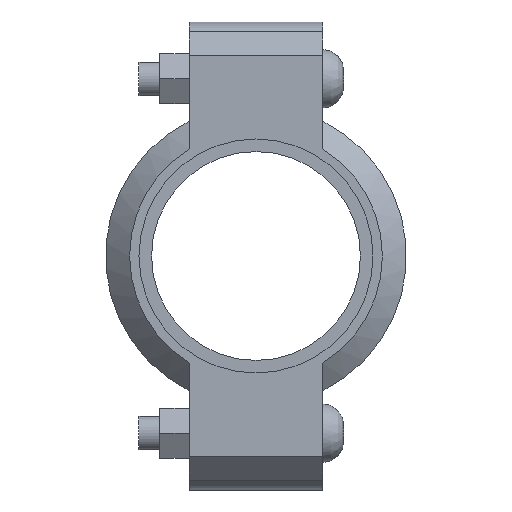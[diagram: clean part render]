
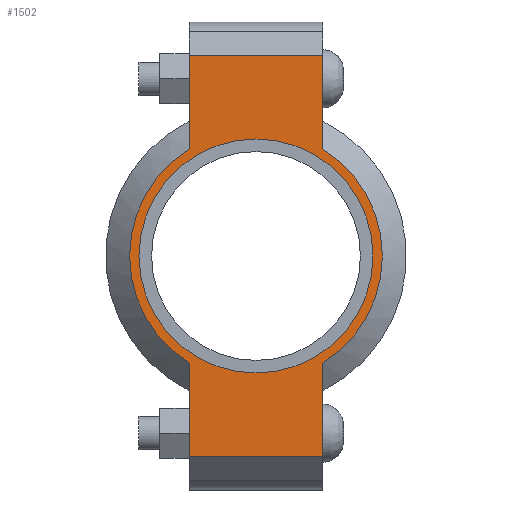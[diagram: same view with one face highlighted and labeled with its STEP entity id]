
A CAD part, left-side view. The second image highlights one B-rep face of the part: STEP entity #1502.
In plain terms, the highlighted planar face has unit normal (-1, 0, 0) as drawn and (0, 0, 1) by its records, which use the part's own axes.
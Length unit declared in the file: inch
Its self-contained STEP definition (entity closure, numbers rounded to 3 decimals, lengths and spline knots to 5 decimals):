
#126=LINE('',#2621,#219);
#134=LINE('',#2657,#227);
#141=LINE('',#2678,#234);
#150=LINE('',#2710,#243);
#151=LINE('',#2714,#244);
#152=LINE('',#2716,#245);
#219=VECTOR('',#2145,0.3937);
#227=VECTOR('',#2161,0.3937);
#234=VECTOR('',#2180,0.3937);
#243=VECTOR('',#2205,0.3937);
#244=VECTOR('',#2210,0.3937);
#245=VECTOR('',#2211,0.3937);
#301=FACE_BOUND('',#479,.T.);
#373=FACE_OUTER_BOUND('',#478,.T.);
#478=EDGE_LOOP('',(#1243,#1244,#1245,#1246,#1247,#1248,#1249,#1250));
#479=EDGE_LOOP('',(#1251));
#551=CIRCLE('',#1721,1.75);
#577=CIRCLE('',#1780,1.89);
#578=CIRCLE('',#1781,1.89);
#643=VERTEX_POINT('',#2437);
#686=VERTEX_POINT('',#2618);
#687=VERTEX_POINT('',#2620);
#698=VERTEX_POINT('',#2652);
#699=VERTEX_POINT('',#2656);
#706=VERTEX_POINT('',#2675);
#707=VERTEX_POINT('',#2677);
#717=VERTEX_POINT('',#2713);
#718=VERTEX_POINT('',#2715);
#799=EDGE_CURVE('',#643,#643,#551,.T.);
#860=EDGE_CURVE('',#687,#686,#126,.T.);
#874=EDGE_CURVE('',#699,#698,#134,.T.);
#884=EDGE_CURVE('',#707,#706,#141,.T.);
#899=EDGE_CURVE('',#699,#686,#150,.T.);
#900=EDGE_CURVE('',#698,#707,#577,.T.);
#901=EDGE_CURVE('',#717,#706,#151,.T.);
#902=EDGE_CURVE('',#717,#718,#152,.T.);
#903=EDGE_CURVE('',#718,#687,#578,.T.);
#1243=ORIENTED_EDGE('',*,*,#899,.F.);
#1244=ORIENTED_EDGE('',*,*,#874,.T.);
#1245=ORIENTED_EDGE('',*,*,#900,.T.);
#1246=ORIENTED_EDGE('',*,*,#884,.T.);
#1247=ORIENTED_EDGE('',*,*,#901,.F.);
#1248=ORIENTED_EDGE('',*,*,#902,.T.);
#1249=ORIENTED_EDGE('',*,*,#903,.T.);
#1250=ORIENTED_EDGE('',*,*,#860,.T.);
#1251=ORIENTED_EDGE('',*,*,#799,.T.);
#1344=PLANE('',#1779);
#1502=ADVANCED_FACE('',(#373,#301),#1344,.T.);
#1721=AXIS2_PLACEMENT_3D('',#2439,#2021,#2022);
#1779=AXIS2_PLACEMENT_3D('',#2711,#2206,#2207);
#1780=AXIS2_PLACEMENT_3D('',#2712,#2208,#2209);
#1781=AXIS2_PLACEMENT_3D('',#2717,#2212,#2213);
#2021=DIRECTION('center_axis',(0.,0.,-1.));
#2022=DIRECTION('ref_axis',(-1.,0.,0.));
#2145=DIRECTION('',(-1.,0.,0.));
#2161=DIRECTION('',(1.,0.,0.));
#2180=DIRECTION('',(1.,0.,0.));
#2205=DIRECTION('',(0.,1.,0.));
#2206=DIRECTION('center_axis',(0.,0.,1.));
#2207=DIRECTION('ref_axis',(1.,0.,0.));
#2208=DIRECTION('center_axis',(0.,0.,1.));
#2209=DIRECTION('ref_axis',(-1.,0.,0.));
#2210=DIRECTION('',(0.,-1.,0.));
#2211=DIRECTION('',(-1.,0.,0.));
#2212=DIRECTION('center_axis',(0.,0.,1.));
#2213=DIRECTION('ref_axis',(-1.,0.,0.));
#2437=CARTESIAN_POINT('',(1.75,0.,0.94));
#2439=CARTESIAN_POINT('Origin',(0.,0.,0.94));
#2618=CARTESIAN_POINT('',(-3.,1.,0.94));
#2620=CARTESIAN_POINT('',(-1.60378,1.,0.94));
#2621=CARTESIAN_POINT('',(-3.5,1.,0.94));
#2652=CARTESIAN_POINT('',(-1.60378,-1.,0.94));
#2656=CARTESIAN_POINT('',(-3.,-1.,0.94));
#2657=CARTESIAN_POINT('',(3.5,-1.,0.94));
#2675=CARTESIAN_POINT('',(3.,-1.,0.94));
#2677=CARTESIAN_POINT('',(1.60378,-1.,0.94));
#2678=CARTESIAN_POINT('',(3.5,-1.,0.94));
#2710=CARTESIAN_POINT('',(-3.,0.5,0.94));
#2711=CARTESIAN_POINT('Origin',(0.,0.,
0.94));
#2712=CARTESIAN_POINT('Origin',(0.,0.,0.94));
#2713=CARTESIAN_POINT('',(3.,1.,0.94));
#2714=CARTESIAN_POINT('',(3.,-0.5,0.94));
#2715=CARTESIAN_POINT('',(1.60378,1.,0.94));
#2716=CARTESIAN_POINT('',(-3.5,1.,0.94));
#2717=CARTESIAN_POINT('Origin',(0.,0.,0.94));
